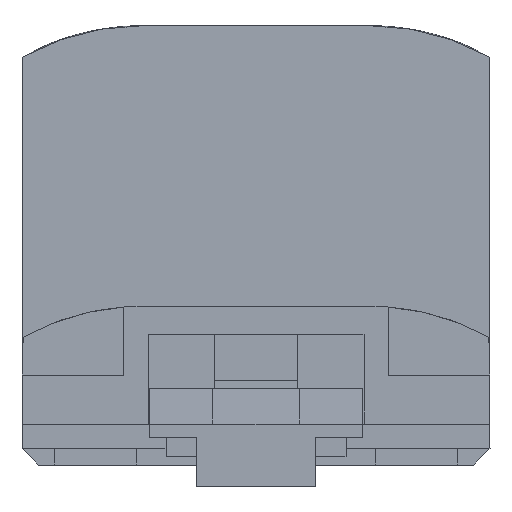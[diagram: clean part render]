
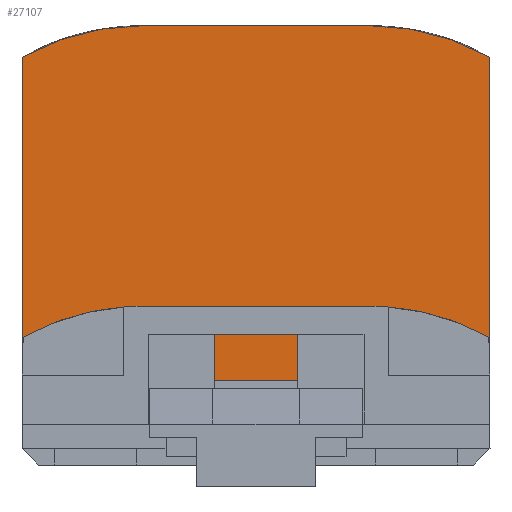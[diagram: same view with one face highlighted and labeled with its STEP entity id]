
A CAD part, front view. The second image highlights one B-rep face of the part: STEP entity #27107.
In plain terms, the highlighted planar face has unit normal (0, -1, 0) as drawn and (-1, 0, 0) by its records, which use the part's own axes.
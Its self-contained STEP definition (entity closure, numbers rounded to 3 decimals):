
#434=CIRCLE('',#28344,15.);
#469=CIRCLE('',#28481,15.);
#5527=ORIENTED_EDGE('',*,*,#9257,.T.);
#5528=ORIENTED_EDGE('',*,*,#9205,.T.);
#5529=ORIENTED_EDGE('',*,*,#9258,.T.);
#5530=ORIENTED_EDGE('',*,*,#9088,.F.);
#5531=ORIENTED_EDGE('',*,*,#9032,.F.);
#5532=ORIENTED_EDGE('',*,*,#9246,.F.);
#5533=ORIENTED_EDGE('',*,*,#7036,.T.);
#5534=ORIENTED_EDGE('',*,*,#7043,.T.);
#5535=ORIENTED_EDGE('',*,*,#7046,.T.);
#5536=ORIENTED_EDGE('',*,*,#7049,.T.);
#5537=ORIENTED_EDGE('',*,*,#7052,.T.);
#5538=ORIENTED_EDGE('',*,*,#7058,.T.);
#5539=ORIENTED_EDGE('',*,*,#7055,.T.);
#5540=ORIENTED_EDGE('',*,*,#9078,.T.);
#5541=ORIENTED_EDGE('',*,*,#8976,.F.);
#5542=ORIENTED_EDGE('',*,*,#9006,.F.);
#5543=ORIENTED_EDGE('',*,*,#9191,.F.);
#5544=ORIENTED_EDGE('',*,*,#8934,.T.);
#7036=EDGE_CURVE('',#9926,#9925,#11883,.T.);
#7043=EDGE_CURVE('',#9925,#9930,#11890,.T.);
#7046=EDGE_CURVE('',#9930,#9932,#11893,.T.);
#7049=EDGE_CURVE('',#9932,#9934,#11896,.T.);
#7052=EDGE_CURVE('',#9934,#9936,#11899,.T.);
#7055=EDGE_CURVE('',#9940,#9939,#11902,.T.);
#7058=EDGE_CURVE('',#9936,#9940,#11905,.T.);
#8934=EDGE_CURVE('',#11191,#11190,#434,.T.);
#8976=EDGE_CURVE('',#11224,#11223,#13331,.T.);
#9006=EDGE_CURVE('',#11252,#11224,#13355,.T.);
#9032=EDGE_CURVE('',#11273,#11274,#13369,.T.);
#9078=EDGE_CURVE('',#9939,#11223,#13402,.T.);
#9088=EDGE_CURVE('',#11274,#11305,#13411,.T.);
#9191=EDGE_CURVE('',#11191,#11252,#13489,.T.);
#9205=EDGE_CURVE('',#11361,#11364,#469,.T.);
#9246=EDGE_CURVE('',#9926,#11273,#13531,.T.);
#9257=EDGE_CURVE('',#11190,#11361,#13539,.T.);
#9258=EDGE_CURVE('',#11364,#11305,#13540,.T.);
#9925=VERTEX_POINT('',#35774);
#9926=VERTEX_POINT('',#35776);
#9930=VERTEX_POINT('',#35788);
#9932=VERTEX_POINT('',#35794);
#9934=VERTEX_POINT('',#35800);
#9936=VERTEX_POINT('',#35806);
#9939=VERTEX_POINT('',#35813);
#9940=VERTEX_POINT('',#35815);
#11190=VERTEX_POINT('',#50701);
#11191=VERTEX_POINT('',#50703);
#11223=VERTEX_POINT('',#51098);
#11224=VERTEX_POINT('',#51100);
#11252=VERTEX_POINT('',#51270);
#11273=VERTEX_POINT('',#51325);
#11274=VERTEX_POINT('',#51327);
#11305=VERTEX_POINT('',#51568);
#11361=VERTEX_POINT('',#52242);
#11364=VERTEX_POINT('',#52343);
#11883=LINE('',#35775,#14201);
#11890=LINE('',#35789,#14208);
#11893=LINE('',#35795,#14211);
#11896=LINE('',#35801,#14214);
#11899=LINE('',#35807,#14217);
#11902=LINE('',#35814,#14220);
#11905=LINE('',#35819,#14223);
#13331=LINE('',#51101,#15649);
#13355=LINE('',#51271,#15673);
#13369=LINE('',#51326,#15687);
#13402=LINE('',#51537,#15720);
#13411=LINE('',#51569,#15729);
#13489=LINE('',#52139,#15807);
#13531=LINE('',#52686,#15849);
#13539=LINE('',#52709,#15857);
#13540=LINE('',#52710,#15858);
#14201=VECTOR('',#29113,1000.);
#14208=VECTOR('',#29124,1000.);
#14211=VECTOR('',#29129,1000.);
#14214=VECTOR('',#29134,1000.);
#14217=VECTOR('',#29139,1000.);
#14220=VECTOR('',#29144,1000.);
#14223=VECTOR('',#29149,1000.);
#15649=VECTOR('',#32469,1000.);
#15673=VECTOR('',#32515,1000.);
#15687=VECTOR('',#32569,1000.);
#15720=VECTOR('',#32650,1000.);
#15729=VECTOR('',#32667,1000.);
#15807=VECTOR('',#32863,1000.);
#15849=VECTOR('',#32967,1000.);
#15857=VECTOR('',#33001,1000.);
#15858=VECTOR('',#33002,1000.);
#17150=EDGE_LOOP('',(#5527,#5528,#5529,#5530,#5531,#5532,#5533,#5534,#5535,
#5536,#5537,#5538,#5539,#5540,#5541,#5542,#5543,#5544));
#18176=FACE_BOUND('',#17150,.T.);
#18996=PLANE('',#28517);
#27107=ADVANCED_FACE('',(#18176),#18996,.T.);
#28344=AXIS2_PLACEMENT_3D('',#50702,#32411,#32412);
#28481=AXIS2_PLACEMENT_3D('',#52344,#32886,#32887);
#28517=AXIS2_PLACEMENT_3D('',#52708,#32999,#33000);
#29113=DIRECTION('',(0.,0.,-1.));
#29124=DIRECTION('',(0.,1.,0.));
#29129=DIRECTION('',(0.,0.,-1.));
#29134=DIRECTION('',(0.,-1.,0.));
#29139=DIRECTION('',(0.,0.,1.));
#29144=DIRECTION('',(0.,0.,1.));
#29149=DIRECTION('',(0.,1.,0.));
#32411=DIRECTION('',(-1.,0.,0.));
#32412=DIRECTION('',(0.,1.,0.));
#32469=DIRECTION('',(0.,0.,1.));
#32515=DIRECTION('',(0.,1.,0.));
#32569=DIRECTION('',(0.,0.,-1.));
#32650=DIRECTION('',(0.,-1.,0.));
#32667=DIRECTION('',(0.,1.,0.));
#32863=DIRECTION('',(0.,0.,-1.));
#32886=DIRECTION('',(-1.,0.,0.));
#32887=DIRECTION('',(0.,1.,0.));
#32967=DIRECTION('',(0.,1.,0.));
#32999=DIRECTION('',(-1.,0.,0.));
#33000=DIRECTION('',(0.,-1.,0.));
#33001=DIRECTION('',(0.,1.,0.));
#33002=DIRECTION('',(0.,0.,-1.));
#35774=CARTESIAN_POINT('',(0.,25.2,1.));
#35775=CARTESIAN_POINT('',(0.,25.2,3.2));
#35776=CARTESIAN_POINT('',(0.,25.2,2.1));
#35788=CARTESIAN_POINT('',(0.,26.5,1.));
#35789=CARTESIAN_POINT('',(0.,42.75,1.));
#35794=CARTESIAN_POINT('',(0.,26.5,0.));
#35795=CARTESIAN_POINT('',(0.,26.5,3.2));
#35800=CARTESIAN_POINT('',(0.,2.1,0.));
#35801=CARTESIAN_POINT('',(0.,42.75,0.));
#35806=CARTESIAN_POINT('',(0.,2.1,1.));
#35807=CARTESIAN_POINT('',(0.,2.1,3.2));
#35813=CARTESIAN_POINT('',(0.,3.4,2.1));
#35814=CARTESIAN_POINT('',(0.,3.4,3.2));
#35815=CARTESIAN_POINT('',(0.,3.4,1.));
#35819=CARTESIAN_POINT('',(0.,42.75,1.));
#50701=CARTESIAN_POINT('',(0.,7.35,21.7));
#50702=CARTESIAN_POINT('',(0.,7.35,6.7));
#50703=CARTESIAN_POINT('',(0.,0.,19.776));
#51098=CARTESIAN_POINT('',(0.,0.8,2.1));
#51100=CARTESIAN_POINT('',(0.,0.8,0.55));
#51101=CARTESIAN_POINT('',(0.,0.8,3.2));
#51270=CARTESIAN_POINT('',(0.,0.,0.55));
#51271=CARTESIAN_POINT('',(0.,42.75,0.55));
#51325=CARTESIAN_POINT('',(0.,27.8,2.1));
#51326=CARTESIAN_POINT('',(0.,27.8,3.2));
#51327=CARTESIAN_POINT('',(0.,27.8,0.55));
#51537=CARTESIAN_POINT('',(0.,42.75,2.1));
#51568=CARTESIAN_POINT('',(0.,28.6,0.55));
#51569=CARTESIAN_POINT('',(0.,42.75,0.55));
#52139=CARTESIAN_POINT('',(0.,0.,3.2));
#52242=CARTESIAN_POINT('',(0.,21.25,21.7));
#52343=CARTESIAN_POINT('',(0.,28.6,19.776));
#52344=CARTESIAN_POINT('',(0.,21.25,6.7));
#52686=CARTESIAN_POINT('',(0.,42.75,2.1));
#52708=CARTESIAN_POINT('',(0.,19.235,28.622));
#52709=CARTESIAN_POINT('',(0.,42.75,21.7));
#52710=CARTESIAN_POINT('',(0.,28.6,3.2));
